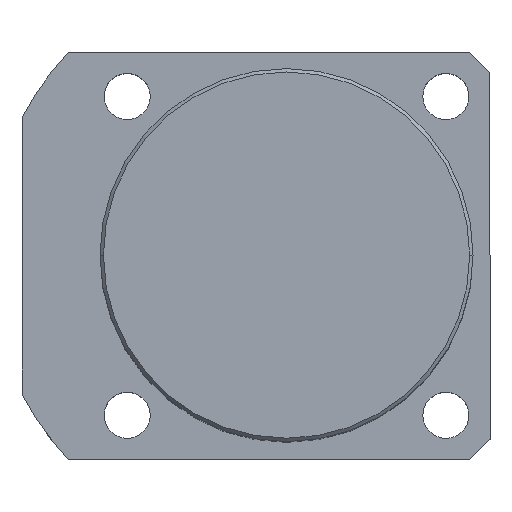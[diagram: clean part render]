
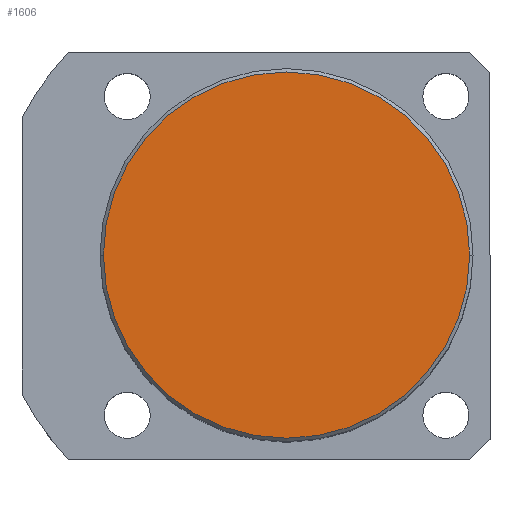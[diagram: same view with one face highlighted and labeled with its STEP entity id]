
A CAD part, top view. The second image highlights one B-rep face of the part: STEP entity #1606.
In plain terms, the highlighted planar face has unit normal (0, 0, 1).
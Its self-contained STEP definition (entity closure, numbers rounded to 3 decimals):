
#154 = EDGE_CURVE ( 'NONE', #585, #1545, #1023, .T. ) ;
#258 = CARTESIAN_POINT ( 'NONE',  ( 0., 0., 75. ) ) ;
#315 = DIRECTION ( 'NONE',  ( 1., 0., 0. ) ) ;
#440 = CARTESIAN_POINT ( 'NONE',  ( 0., 0., 75. ) ) ;
#526 = DIRECTION ( 'NONE',  ( 0., 0., 1. ) ) ;
#585 = VERTEX_POINT ( 'NONE', #1113 ) ;
#586 = FACE_OUTER_BOUND ( 'NONE', #842, .T. ) ;
#631 = CIRCLE ( 'NONE', #1338, 27. ) ;
#672 = CARTESIAN_POINT ( 'NONE',  ( 27., 0., 75. ) ) ;
#842 = EDGE_LOOP ( 'NONE', ( #1102, #1201 ) ) ;
#1023 = CIRCLE ( 'NONE', #1569, 27. ) ;
#1084 = CARTESIAN_POINT ( 'NONE',  ( 0., 0., 75. ) ) ;
#1102 = ORIENTED_EDGE ( 'NONE', *, *, #154, .T. ) ;
#1113 = CARTESIAN_POINT ( 'NONE',  ( -27., 0., 75. ) ) ;
#1201 = ORIENTED_EDGE ( 'NONE', *, *, #1542, .T. ) ;
#1223 = DIRECTION ( 'NONE',  ( 1., 0., 0. ) ) ;
#1228 = DIRECTION ( 'NONE',  ( 0., 0., 1. ) ) ;
#1338 = AXIS2_PLACEMENT_3D ( 'NONE', #258, #526, #1506 ) ;
#1434 = DIRECTION ( 'NONE',  ( 0., 0., 1. ) ) ;
#1506 = DIRECTION ( 'NONE',  ( 1., 0., 0. ) ) ;
#1542 = EDGE_CURVE ( 'NONE', #1545, #585, #631, .T. ) ;
#1545 = VERTEX_POINT ( 'NONE', #672 ) ;
#1569 = AXIS2_PLACEMENT_3D ( 'NONE', #440, #1434, #315 ) ;
#1606 = ADVANCED_FACE ( 'NONE', ( #586 ), #1638, .T. ) ;
#1634 = AXIS2_PLACEMENT_3D ( 'NONE', #1084, #1228, #1223 ) ;
#1638 = PLANE ( 'NONE',  #1634 ) ;
